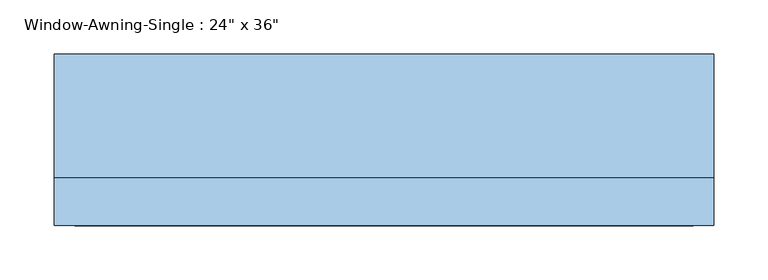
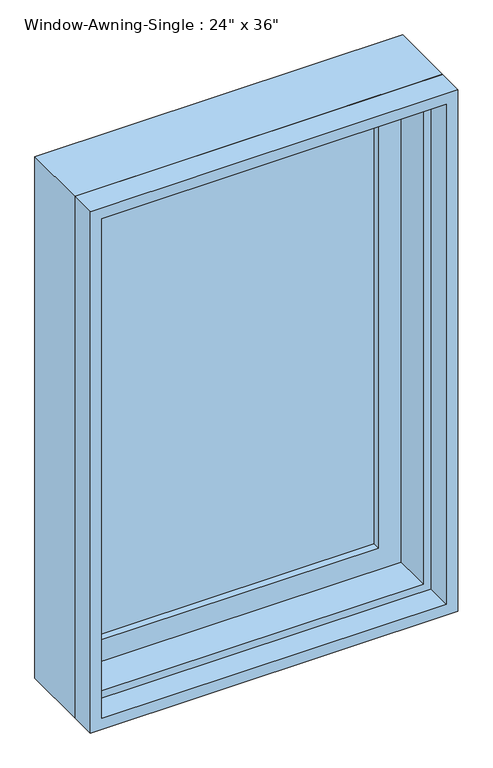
"""IFC4 building model written with IfcOpenShell, lengths in millimetres: window geometry."""

import ifcopenshell
import ifcopenshell.guid

model = None  # the IFC model being written
_history = None  # IfcOwnerHistory: only IFC2X3 demands one
_inside = {}  # id of a spatial element -> (the spatial element, [elements in it])
_under = {}  # id of a project, library or spatial element -> (it, [spatial elements below it])
_declared = {}  # id of a project -> (the project, [libraries it declares])
_typed = {}  # id of a type object -> (the type object, [elements of that type])
_made_of = {}  # id of a material, layer set ... -> (it, [elements and type objects made of it])


def new_model(schema):
    """Start an empty IFC model of exactly this schema.

    Asked for "IFC4X3", IfcOpenShell would pick the latest addendum, in which some entities
    have other attributes; the version numbers below select the first issue.
    IFC2X3 requires an IfcOwnerHistory on every rooted entity: one is made here for all.
    """
    global model, _history
    if schema == "IFC4X3":
        model = ifcopenshell.file(schema_version=(4, 3, 0, 0))
    else:
        model = ifcopenshell.file(schema=schema)
    _inside.clear()
    _under.clear()
    _declared.clear()
    _typed.clear()
    _made_of.clear()
    _history = None
    if model.schema == "IFC2X3":
        org = make("IfcOrganization", Name="unknown")
        user = make(
            "IfcPersonAndOrganization",
            ThePerson=make("IfcPerson", FamilyName="unknown"),
            TheOrganization=org,
        )
        app = make(
            "IfcApplication",
            ApplicationDeveloper=org,
            Version="unknown",
            ApplicationFullName="unknown",
            ApplicationIdentifier="unknown",
        )
        _history = make(
            "IfcOwnerHistory",
            OwningUser=user,
            OwningApplication=app,
            ChangeAction="ADDED",
            CreationDate=0,
        )
    return model


def make(cls, **values):
    """One entity of the class cls with the attributes given. An attribute that is None is left unset."""
    return model.create_entity(
        cls, **{name: value for name, value in values.items() if value is not None}
    )


def rooted(cls, **values):
    """An entity with a GlobalId (a new one), such as an element, a storey or a relation."""
    return make(cls, GlobalId=ifcopenshell.guid.new(), OwnerHistory=_history, **values)


def si_unit(unit_type, name, prefix=None):
    """IfcSIUnit, for example si_unit("LENGTHUNIT", "METRE", prefix="MILLI")."""
    return make("IfcSIUnit", UnitType=unit_type, Prefix=prefix, Name=name)


def assignment(units):
    """IfcUnitAssignment: the units of a project."""
    return None if units is None else make("IfcUnitAssignment", Units=units)


def point(xyz):
    """IfcCartesianPoint."""
    return None if xyz is None else make("IfcCartesianPoint", Coordinates=xyz)


def direction(xyz):
    """IfcDirection."""
    return None if xyz is None else make("IfcDirection", DirectionRatios=xyz)


def frame(location, z_axis=None, x_axis=None):
    """IfcAxis2Placement3D, a coordinate frame: its origin and axes. An axis left out is left unset."""
    return make(
        "IfcAxis2Placement3D",
        Location=point(location),
        Axis=direction(z_axis),
        RefDirection=direction(x_axis),
    )


def origin():
    """The frame at (0, 0, 0) with its axes left unset."""
    return frame((0.0, 0.0, 0.0))


def place(relative_to, where):
    """IfcLocalPlacement: puts the frame where relative to a parent placement (None: the world)."""
    return make(
        "IfcLocalPlacement", PlacementRelTo=relative_to, RelativePlacement=where
    )


def context(
    kind, dimensions, precision=None, world=None, true_north=None, identifier=None
):
    """IfcGeometricRepresentationContext, for example the 3D "Model" context."""
    return make(
        "IfcGeometricRepresentationContext",
        ContextIdentifier=identifier,
        ContextType=kind,
        CoordinateSpaceDimension=dimensions,
        Precision=precision,
        WorldCoordinateSystem=world,
        TrueNorth=true_north,
    )


def project(units=None, contexts=None):
    """IfcProject with its units and contexts."""
    return rooted(
        "IfcProject",
        Name="project",
        RepresentationContexts=contexts,
        UnitsInContext=assignment(units),
    )


def spatial(cls, under=None, at=None, **own):
    """A site, building, storey or space (cls), placed at a placement, below another one or the project."""
    s = rooted(cls, ObjectPlacement=at, **own)
    if under is not None:
        _under.setdefault(under.id(), (under, []))[1].append(s)
    return s


def polyline(points):
    """IfcPolyline through the points."""
    return make("IfcPolyline", Points=[point(p) for p in points])


def outline(outer, holes=None, kind="AREA"):
    """IfcArbitraryClosedProfileDef: a profile drawn as a closed curve; with holes, ...WithVoids."""
    if holes is None:
        return make("IfcArbitraryClosedProfileDef", ProfileType=kind, OuterCurve=outer)
    return make(
        "IfcArbitraryProfileDefWithVoids",
        ProfileType=kind,
        OuterCurve=outer,
        InnerCurves=holes,
    )


def extrude(swept, where, along, depth):
    """IfcExtrudedAreaSolid: the profile swept, set in the frame where, extruded along a direction by depth."""
    return make(
        "IfcExtrudedAreaSolid",
        SweptArea=swept,
        Position=where,
        ExtrudedDirection=direction(along),
        Depth=depth,
    )


def faces_of(points, faces, orient=None, outer=None):
    """IfcFace entities. A face is a list of loops; a loop is a list of indices into points, from 0.

    orient and outer hold one flag for each loop. By default every Orientation is true, the
    first loop of a face is its IfcFaceOuterBound and the others are IfcFaceBound.
    """
    made = []
    for i, loops in enumerate(faces):
        bounds = []
        for j, loop in enumerate(loops):
            is_outer = j == 0 if outer is None else outer[i][j]
            bounds.append(
                make(
                    "IfcFaceOuterBound" if is_outer else "IfcFaceBound",
                    Bound=make("IfcPolyLoop", Polygon=[points[k] for k in loop]),
                    Orientation=True if orient is None else orient[i][j],
                )
            )
        made.append(make("IfcFace", Bounds=bounds))
    return made


def faceted_brep(points, faces, orient=None, outer=None, voids=None):
    """IfcFacetedBrep: a solid bounded by flat faces; with voids (closed shells), ...WithVoids."""
    shared = [point(p) for p in points]
    hull = make("IfcClosedShell", CfsFaces=faces_of(shared, faces, orient, outer))
    if voids is None:
        return make("IfcFacetedBrep", Outer=hull)
    return make(
        "IfcFacetedBrepWithVoids",
        Outer=hull,
        Voids=[
            make(cls, CfsFaces=faces_of(shared, fs, o, b)) for cls, fs, o, b in voids
        ],
    )


def shape(context_of_items, identifier, shape_type, items):
    """IfcShapeRepresentation: the items that make up one representation, for example the "Body"."""
    return make(
        "IfcShapeRepresentation",
        ContextOfItems=context_of_items,
        RepresentationIdentifier=identifier,
        RepresentationType=shape_type,
        Items=items,
    )


def source(mapping_origin, context_of_items, identifier, shape_type, items):
    """IfcRepresentationMap: a shape defined once, which mapped items show again and again."""
    return make(
        "IfcRepresentationMap",
        MappingOrigin=mapping_origin,
        MappedRepresentation=shape(context_of_items, identifier, shape_type, items),
    )


def transform(
    local_origin,
    x_axis=None,
    y_axis=None,
    z_axis=None,
    scale=None,
    scale2=None,
    scale3=None,
    uniform=True,
):
    """IfcCartesianTransformationOperator3D, or its non-uniform kind. x_axis, y_axis, z_axis: its Axis1, 2, 3."""
    if uniform:
        return make(
            "IfcCartesianTransformationOperator3D",
            Axis1=direction(x_axis),
            Axis2=direction(y_axis),
            LocalOrigin=point(local_origin),
            Scale=scale,
            Axis3=direction(z_axis),
        )
    return make(
        "IfcCartesianTransformationOperator3DnonUniform",
        Axis1=direction(x_axis),
        Axis2=direction(y_axis),
        LocalOrigin=point(local_origin),
        Scale=scale,
        Axis3=direction(z_axis),
        Scale2=scale2,
        Scale3=scale3,
    )


def mapped(mapping_source, mapping_target):
    """IfcMappedItem: shows the shape of a source again, moved by a transform."""
    return make(
        "IfcMappedItem", MappingSource=mapping_source, MappingTarget=mapping_target
    )


def made_of(thing, what):
    """Note that an element or type object is made of a material, layer set ...; save() writes the relation."""
    if what is not None:
        _made_of.setdefault(what.id(), (what, []))[1].append(thing)
    return thing


def element(
    cls,
    number,
    at=None,
    inside=None,
    cuts=None,
    type_object=None,
    material=None,
    context=None,
    identifier="Body",
    shape_type=None,
    held_by="IfcProductDefinitionShape",
    body=None,
    shapes=None,
    **own,
):
    """One element of the class cls, such as IfcWall. Its Tag is "e" and its number.

    at: its placement. inside: the storey or other place that contains it. cuts: it is an
    opening in that element (IfcRelVoidsElement). A single representation is given by context,
    identifier, shape_type and body (its items); several are given by shapes. held_by: the class
    of the entity that holds the representations. save() writes the other relations.
    """
    e = rooted(cls, Tag="e%d" % number, ObjectPlacement=at, **own)
    if body is not None:
        shapes = [shape(context, identifier, shape_type, body)]
    if shapes is not None:
        e.Representation = make(held_by, Representations=shapes)
    if inside is not None:
        _inside.setdefault(inside.id(), (inside, []))[1].append(e)
    if cuts is not None:
        rooted(
            "IfcRelVoidsElement", RelatingBuildingElement=cuts, RelatedOpeningElement=e
        )
    if type_object is not None:
        _typed.setdefault(type_object.id(), (type_object, []))[1].append(e)
    return made_of(e, material)


def aggregate(whole, parts):
    """IfcRelAggregates: a whole, such as a stair, and the parts it consists of."""
    return rooted("IfcRelAggregates", RelatingObject=whole, RelatedObjects=parts)


def save(model, path):
    """Write the relations noted so far, then the file.

    IfcRelAggregates (storeys below a building ...), IfcRelContainedInSpatialStructure (elements
    in a storey), IfcRelDefinesByType, IfcRelAssociatesMaterial and IfcRelDeclares: one each for
    every whole, place, type object, material and project.
    """
    for whole, parts in _under.values():
        aggregate(whole, parts)
    for where, things in _inside.values():
        rooted(
            "IfcRelContainedInSpatialStructure",
            RelatedElements=things,
            RelatingStructure=where,
        )
    for kind, things in _typed.values():
        rooted("IfcRelDefinesByType", RelatedObjects=things, RelatingType=kind)
    for what, things in _made_of.values():
        rooted("IfcRelAssociatesMaterial", RelatedObjects=things, RelatingMaterial=what)
    for by, libraries in _declared.values():
        rooted("IfcRelDeclares", RelatingContext=by, RelatedDefinitions=libraries)
    model.write(path)


def window_d7bc73cd(model_context):
    return source(origin(), model_context, "Body", "SolidModel", [
        faceted_brep([(292.1, 38.1, 927.1), (292.1, 88.9, 927.1), (-292.1, 88.9, 927.1), (-292.1, 38.1, 927.1), (273.05, -25.4, 946.15), (273.05, 38.1, 946.15), (-273.05, 38.1, 946.15), (-273.05, -25.4, 946.15), (304.8, 88.9, 914.4), (304.8, -25.4, 914.4), (-304.8, -25.4, 914.4), (-304.8, 88.9, 914.4), (-292.1, 88.9, 1816.1), (-292.1, 38.1, 1816.1), (-273.05, 38.1, 1797.05), (-273.05, -25.4, 1797.05), (-304.8, -25.4, 1828.8), (-304.8, 88.9, 1828.8), (292.1, 88.9, 1816.1), (292.1, 38.1, 1816.1), (273.05, 38.1, 1797.05), (273.05, -25.4, 1797.05), (304.8, -25.4, 1828.8), (304.8, 88.9, 1828.8)], [[[0, 1, 2, 3]], [[4, 5, 6, 7]], [[8, 9, 10, 11]], [[3, 2, 12, 13]], [[7, 6, 14, 15]], [[11, 10, 16, 17]], [[13, 12, 18, 19]], [[15, 14, 20, 21]], [[17, 16, 22, 23]], [[11, 17, 23, 8], [1, 18, 12, 2]], [[19, 18, 1, 0]], [[3, 13, 19, 0], [5, 20, 14, 6]], [[21, 20, 5, 4]], [[9, 22, 16, 10], [7, 15, 21, 4]], [[23, 22, 9, 8]]]),
        extrude(outline(polyline([(234.95, 69.85), (234.95, 63.5), (-234.95, 63.5), (-234.95, 69.85), (234.95, 69.85)])), frame((0.0, 0.0, 984.25), z_axis=(0.0, 0.0, 1.0), x_axis=(1.0, 0.0, 0.0)), (0.0, 0.0, 1.0), 774.7),
        extrude(outline(polyline([(234.95, 57.15), (234.95, 50.8), (-234.95, 50.8), (-234.95, 57.15), (234.95, 57.15)])), frame((0.0, 0.0, 984.25), z_axis=(0.0, 0.0, 1.0), x_axis=(1.0, 0.0, 0.0)), (0.0, 0.0, 1.0), 774.7),
        extrude(outline(polyline([(927.1, -292.1), (927.1, 292.1), (1816.1, 292.1), (1816.1, -292.1), (927.1, -292.1)]), holes=[polyline([(1758.95, -234.95), (1758.95, 234.95), (984.25, 234.95), (984.25, -234.95), (1758.95, -234.95)])]), frame((0.0, 38.1, 0.0), z_axis=(0.0, 1.0, 0.0), x_axis=(0.0, 0.0, 1.0)), (0.0, 0.0, 1.0), 44.45),
        extrude(outline(polyline([(1828.8, -304.8), (914.4, -304.8), (914.4, 304.8), (1828.8, 304.8), (1828.8, -304.8)]), holes=[polyline([(1809.75, -285.75), (1809.75, 285.75), (933.45, 285.75), (933.45, -285.75), (1809.75, -285.75)])]), frame((0.0, -69.85, 0.0), z_axis=(0.0, 1.0, 0.0), x_axis=(0.0, 0.0, 1.0)), (0.0, 0.0, 1.0), 44.45),
    ])


if __name__ == "__main__":
    model = new_model("IFC4")
    model_context = context("Model", 3, world=origin())
    ifc_project = project(units=[si_unit("LENGTHUNIT", "METRE", prefix="MILLI")], contexts=[model_context])
    site = spatial("IfcSite", under=ifc_project)
    building = spatial("IfcBuilding", under=site)
    placement = place(None, origin())
    window_shape = window_d7bc73cd(model_context)
    element("IfcWindow", 1, ObjectType="Window-Awning-Single : 24\" x 36\"", at=placement, inside=building, context=model_context, shape_type="MappedRepresentation", body=[
        mapped(window_shape, transform((0.0, 0.0, 0.0), x_axis=(1.0, 0.0, 0.0), y_axis=(0.0, 1.0, 0.0), z_axis=(0.0, 0.0, 1.0))),
    ])
    save(model, "model.ifc")
